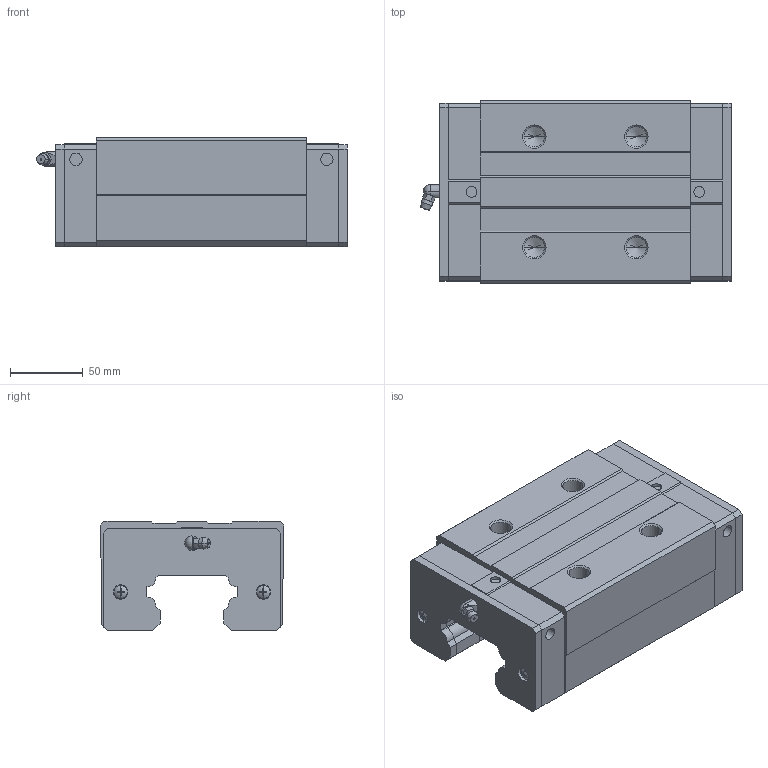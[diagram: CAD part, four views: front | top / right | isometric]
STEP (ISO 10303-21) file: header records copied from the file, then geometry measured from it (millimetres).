
FILE_DESCRIPTION(('starvars output'),'2;1');
FILE_NAME('cv20190617061534000042741.stp','06:15:34 2019/06/17',( 'Thomas Industrial Network Germany GmbH'),( 'Thomas Industrial Network Germany GmbH'),'unknown preprocess','ACIS' ,'unknown authorization');
FILE_SCHEMA(('CONFIG_CONTROL_DESIGN {UNKNOWN IMPLEMENTATION LEVEL}'));
Length unit declared in the file: millimetre
Products named in the file (10): PRODUCT_ID_1; PRODUCT_ID_2; PRODUCT_ID_3; PRODUCT_ID_4; PRODUCT_ID_5; PRODUCT_ID_6; PRODUCT_ID_7; PRODUCT_ID_8; PRODUCT_ID_9; PRODUCT_ID_10
Bounding box: 213.1 x 126 x 75 mm (x, y, z)
Volume: 1412801.8 mm3; surface area: 172281.6 mm2
Topology: 10 solids, 10 shells, 396 faces, 993 edges, 627 vertices
Faces by surface type: plane 244, cone 70, cylinder 70, sphere 12
Entity records: 11258 total; most frequent: ORIENTED_EDGE 1962, CARTESIAN_POINT 1847, DIRECTION 1527, EDGE_CURVE 981, VERTEX_POINT 627, VECTOR 625, LINE 625, AXIS2_PLACEMENT_3D 451
